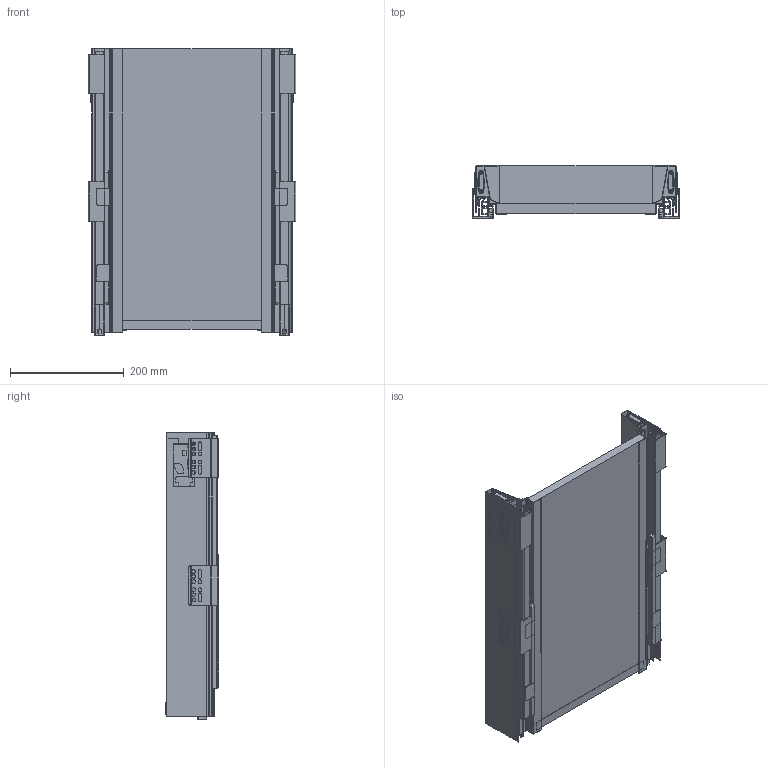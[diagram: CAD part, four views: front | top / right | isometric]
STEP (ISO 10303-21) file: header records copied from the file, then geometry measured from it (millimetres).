
FILE_DESCRIPTION(/* description */ (''),/* implementation_level */ '2;1');
FILE_NAME(/* name */ 'D:\$Workingspace\Designs\Katalog\Cadsoft\GTV Prwadnice II\PB-D(KW)\PB-D(KW)\MB bryły 3D\PB-KW-KPL500A.stp',/* time_stamp */ '2017-02-09T09:31:49+01:00',/* author */ ('tomaszw'),/* organization */ (''),/* preprocessor_version */ 'ST-DEVELOPER v16.1',/* originating_system */ 'Autodesk Inventor 2016',/* authorisation */ '');
FILE_SCHEMA (('CONFIG_CONTROL_DESIGN'));
Length unit declared in the file: millimetre
Products named in the file (16): PB-D-PRSPO-CL-500; PB-D-PRSPO-CR-500; PB-D-PRSPO-DL-500; PB-D-PRSPO-DR-500; PB-D-PR-DWL-500; PB-D-PR-DWR-500; PB-D-PRSPO-500; PB-MK-500-L; PB-MK-500-R; MF-01; MB; MST-L-R; MST-L-L; B_L; A_500; PB-D(KW)
Assembly tree (17 placements, depth 3):
  PB-D(KW)
    PB-D-PRSPO-500
      PB-D-PRSPO-CL-500
      PB-D-PRSPO-CR-500
      PB-D-PRSPO-DL-500
      PB-D-PRSPO-DR-500
      PB-D-PR-DWL-500
      PB-D-PR-DWR-500
    PB-MK-500-L
    PB-MK-500-R
    MF-01  x2
    MB  x2
    MST-L-R
    MST-L-L
    B_L
    A_500
Bounding box: 364 x 93.25 x 502 mm (x, y, z)
Volume: 4013465.8 mm3; surface area: 1473925 mm2
Topology: 28 solids, 28 shells, 1278 faces, 3378 edges, 2146 vertices
Faces by surface type: plane 684, cylinder 450, torus 64, cone 48, sphere 32
Full cylindrical faces by diameter (mm): 4 x4, 6.5 x32, 8 x2
Entity records: 37466 total; most frequent: DIRECTION 6290, CARTESIAN_POINT 6265, ORIENTED_EDGE 6088, EDGE_CURVE 3042, LINE 2164, VECTOR 2164, AXIS2_PLACEMENT_3D 2063, VERTEX_POINT 1998
